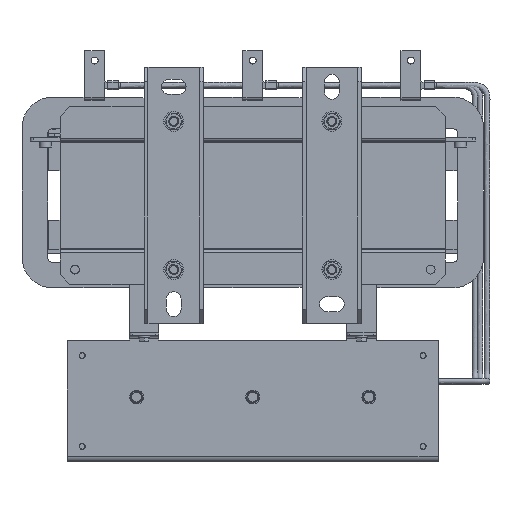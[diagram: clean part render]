
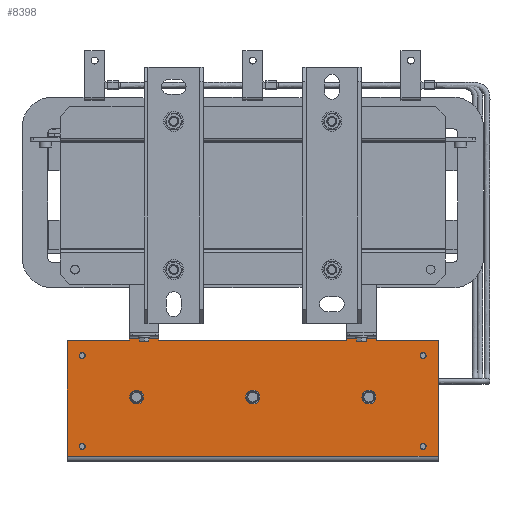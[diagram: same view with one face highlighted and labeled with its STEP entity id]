
A CAD part, front view. The second image highlights one B-rep face of the part: STEP entity #8398.
In plain terms, the highlighted planar face has unit normal (0, -1, 0).
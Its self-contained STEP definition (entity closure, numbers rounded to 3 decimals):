
#8398=ADVANCED_FACE('',(#18544,#18546,#18548,#18550,#18552,#18554,#18556,#18558),
#18560,.F.);
#18544=FACE_BOUND('',#18545,.T.);
#18545=EDGE_LOOP('',(#31270,#31271,#31272,#31273,#31274,#31275,#31276,#31277,#31278,
#31279,#31280,#31281));
#18546=FACE_BOUND('',#18547,.T.);
#18547=EDGE_LOOP('',(#31282));
#18548=FACE_BOUND('',#18549,.T.);
#18549=EDGE_LOOP('',(#31283));
#18550=FACE_BOUND('',#18551,.T.);
#18551=EDGE_LOOP('',(#31284));
#18552=FACE_BOUND('',#18553,.T.);
#18553=EDGE_LOOP('',(#31285));
#18554=FACE_BOUND('',#18555,.T.);
#18555=EDGE_LOOP('',(#31286));
#18556=FACE_BOUND('',#18557,.T.);
#18557=EDGE_LOOP('',(#31287));
#18558=FACE_BOUND('',#18559,.T.);
#18559=EDGE_LOOP('',(#31288));
#18560=PLANE('',#18561);
#18561=AXIS2_PLACEMENT_3D('',#18562,#18563,#18564);
#18562=CARTESIAN_POINT('',(-124.,-60.,187.5));
#18563=DIRECTION('',(0.,1.,0.));
#18564=DIRECTION('',(0.,0.,1.));
#31270=ORIENTED_EDGE('',*,*,#36422,.T.);
#31271=ORIENTED_EDGE('',*,*,#36423,.T.);
#31272=ORIENTED_EDGE('',*,*,#36424,.T.);
#31273=ORIENTED_EDGE('',*,*,#36425,.F.);
#31274=ORIENTED_EDGE('',*,*,#36426,.T.);
#31275=ORIENTED_EDGE('',*,*,#36427,.T.);
#31276=ORIENTED_EDGE('',*,*,#36428,.T.);
#31277=ORIENTED_EDGE('',*,*,#36429,.F.);
#31278=ORIENTED_EDGE('',*,*,#36355,.T.);
#31279=ORIENTED_EDGE('',*,*,#36430,.T.);
#31280=ORIENTED_EDGE('',*,*,#36341,.F.);
#31281=ORIENTED_EDGE('',*,*,#36431,.F.);
#31282=ORIENTED_EDGE('',*,*,#36280,.T.);
#31283=ORIENTED_EDGE('',*,*,#36282,.T.);
#31284=ORIENTED_EDGE('',*,*,#36284,.T.);
#31285=ORIENTED_EDGE('',*,*,#36286,.T.);
#31286=ORIENTED_EDGE('',*,*,#36288,.T.);
#31287=ORIENTED_EDGE('',*,*,#36290,.T.);
#31288=ORIENTED_EDGE('',*,*,#36292,.T.);
#36280=EDGE_CURVE('',#39314,#39314,#39315,.T.);
#36282=EDGE_CURVE('',#39318,#39318,#39319,.T.);
#36284=EDGE_CURVE('',#39322,#39322,#39323,.T.);
#36286=EDGE_CURVE('',#39326,#39326,#39327,.T.);
#36288=EDGE_CURVE('',#39330,#39330,#39331,.T.);
#36290=EDGE_CURVE('',#39334,#39334,#39335,.T.);
#36292=EDGE_CURVE('',#39338,#39338,#39339,.T.);
#36341=EDGE_CURVE('',#39430,#39431,#39432,.T.);
#36355=EDGE_CURVE('',#39459,#39457,#39460,.T.);
#36422=EDGE_CURVE('',#39577,#39578,#39579,.T.);
#36423=EDGE_CURVE('',#39578,#39580,#39581,.T.);
#36424=EDGE_CURVE('',#39580,#39582,#39583,.T.);
#36425=EDGE_CURVE('',#39584,#39582,#39585,.T.);
#36426=EDGE_CURVE('',#39584,#39586,#39587,.T.);
#36427=EDGE_CURVE('',#39586,#39588,#39589,.T.);
#36428=EDGE_CURVE('',#39588,#39590,#39591,.T.);
#36429=EDGE_CURVE('',#39459,#39590,#39592,.T.);
#36430=EDGE_CURVE('',#39457,#39431,#39593,.T.);
#36431=EDGE_CURVE('',#39577,#39430,#39594,.T.);
#39314=VERTEX_POINT('',#46128);
#39315=CIRCLE('',#46129,3.);
#39318=VERTEX_POINT('',#46138);
#39319=CIRCLE('',#46139,3.);
#39322=VERTEX_POINT('',#46148);
#39323=CIRCLE('',#46149,3.);
#39326=VERTEX_POINT('',#46158);
#39327=CIRCLE('',#46159,3.);
#39330=VERTEX_POINT('',#46168);
#39331=CIRCLE('',#46169,7.);
#39334=VERTEX_POINT('',#46178);
#39335=CIRCLE('',#46179,7.);
#39338=VERTEX_POINT('',#46188);
#39339=CIRCLE('',#46189,7.);
#39430=VERTEX_POINT('',#46399);
#39431=VERTEX_POINT('',#46400);
#39432=LINE('',#46401,#46402);
#39457=VERTEX_POINT('',#46456);
#39459=VERTEX_POINT('',#46461);
#39460=LINE('',#46462,#46463);
#39577=VERTEX_POINT('',#46727);
#39578=VERTEX_POINT('',#46728);
#39579=LINE('',#46729,#46730);
#39580=VERTEX_POINT('',#46732);
#39581=LINE('',#46733,#46734);
#39582=VERTEX_POINT('',#46736);
#39583=LINE('',#46737,#46738);
#39584=VERTEX_POINT('',#46740);
#39585=LINE('',#46741,#46742);
#39586=VERTEX_POINT('',#46744);
#39587=LINE('',#46745,#46746);
#39588=VERTEX_POINT('',#46748);
#39589=LINE('',#46749,#46750);
#39590=VERTEX_POINT('',#46752);
#39591=LINE('',#46753,#46754);
#39592=LINE('',#46756,#46757);
#39593=LINE('',#46759,#46760);
#39594=LINE('',#46762,#46763);
#46128=CARTESIAN_POINT('',(-15.,-60.,-172.5));
#46129=AXIS2_PLACEMENT_3D('',#46130,#46131,#46132);
#46130=CARTESIAN_POINT('',(-12.,-60.,-172.5));
#46131=DIRECTION('',(0.,1.,0.));
#46132=DIRECTION('',(1.,0.,0.));
#46138=CARTESIAN_POINT('',(-107.,-60.,172.5));
#46139=AXIS2_PLACEMENT_3D('',#46140,#46141,#46142);
#46140=CARTESIAN_POINT('',(-104.,-60.,172.5));
#46141=DIRECTION('',(0.,1.,0.));
#46142=DIRECTION('',(1.,0.,0.));
#46148=CARTESIAN_POINT('',(-15.,-60.,172.5));
#46149=AXIS2_PLACEMENT_3D('',#46150,#46151,#46152);
#46150=CARTESIAN_POINT('',(-12.,-60.,172.5));
#46151=DIRECTION('',(0.,1.,0.));
#46152=DIRECTION('',(1.,0.,0.));
#46158=CARTESIAN_POINT('',(-107.,-60.,-172.5));
#46159=AXIS2_PLACEMENT_3D('',#46160,#46161,#46162);
#46160=CARTESIAN_POINT('',(-104.,-60.,-172.5));
#46161=DIRECTION('',(0.,1.,0.));
#46162=DIRECTION('',(1.,0.,0.));
#46168=CARTESIAN_POINT('',(-62.,-60.,124.5));
#46169=AXIS2_PLACEMENT_3D('',#46170,#46171,#46172);
#46170=CARTESIAN_POINT('',(-62.,-60.,117.5));
#46171=DIRECTION('',(0.,1.,0.));
#46172=DIRECTION('',(0.,0.,-1.));
#46178=CARTESIAN_POINT('',(-62.,-60.,-110.5));
#46179=AXIS2_PLACEMENT_3D('',#46180,#46181,#46182);
#46180=CARTESIAN_POINT('',(-62.,-60.,-117.5));
#46181=DIRECTION('',(0.,1.,0.));
#46182=DIRECTION('',(0.,0.,-1.));
#46188=CARTESIAN_POINT('',(-62.,-60.,7.));
#46189=AXIS2_PLACEMENT_3D('',#46190,#46191,#46192);
#46190=CARTESIAN_POINT('',(-62.,-60.,0.));
#46191=DIRECTION('',(0.,1.,0.));
#46192=DIRECTION('',(0.,0.,-1.));
#46399=CARTESIAN_POINT('',(-119.,-60.,187.5));
#46400=CARTESIAN_POINT('',(-2.,-60.,187.5));
#46401=CARTESIAN_POINT('',(-119.,-60.,187.5));
#46402=VECTOR('',#46403,1.);
#46403=DIRECTION('',(1.,0.,0.));
#46456=CARTESIAN_POINT('',(-2.,-60.,-187.5));
#46461=CARTESIAN_POINT('',(-119.,-60.,-187.5));
#46462=CARTESIAN_POINT('',(-119.,-60.,-187.5));
#46463=VECTOR('',#46464,1.);
#46464=DIRECTION('',(1.,0.,0.));
#46727=CARTESIAN_POINT('',(-119.,-60.,125.));
#46728=CARTESIAN_POINT('',(-121.,-60.,125.));
#46729=CARTESIAN_POINT('',(-119.,-60.,125.));
#46730=VECTOR('',#46731,1.);
#46731=DIRECTION('',(-1.,0.,0.));
#46732=CARTESIAN_POINT('',(-121.,-60.,95.));
#46733=CARTESIAN_POINT('',(-121.,-60.,125.));
#46734=VECTOR('',#46735,1.);
#46735=DIRECTION('',(0.,0.,-1.));
#46736=CARTESIAN_POINT('',(-119.,-60.,95.));
#46737=CARTESIAN_POINT('',(-121.,-60.,95.));
#46738=VECTOR('',#46739,1.);
#46739=DIRECTION('',(1.,0.,0.));
#46740=CARTESIAN_POINT('',(-119.,-60.,-95.));
#46741=CARTESIAN_POINT('',(-119.,-60.,-95.));
#46742=VECTOR('',#46743,1.);
#46743=DIRECTION('',(0.,0.,1.));
#46744=CARTESIAN_POINT('',(-121.,-60.,-95.));
#46745=CARTESIAN_POINT('',(-119.,-60.,-95.));
#46746=VECTOR('',#46747,1.);
#46747=DIRECTION('',(-1.,0.,0.));
#46748=CARTESIAN_POINT('',(-121.,-60.,-125.));
#46749=CARTESIAN_POINT('',(-121.,-60.,-95.));
#46750=VECTOR('',#46751,1.);
#46751=DIRECTION('',(0.,0.,-1.));
#46752=CARTESIAN_POINT('',(-119.,-60.,-125.));
#46753=CARTESIAN_POINT('',(-121.,-60.,-125.));
#46754=VECTOR('',#46755,1.);
#46755=DIRECTION('',(1.,0.,0.));
#46756=CARTESIAN_POINT('',(-119.,-60.,-187.5));
#46757=VECTOR('',#46758,1.);
#46758=DIRECTION('',(0.,0.,1.));
#46759=CARTESIAN_POINT('',(-2.,-60.,-187.5));
#46760=VECTOR('',#46761,1.);
#46761=DIRECTION('',(0.,0.,1.));
#46762=CARTESIAN_POINT('',(-119.,-60.,125.));
#46763=VECTOR('',#46764,1.);
#46764=DIRECTION('',(0.,0.,1.));
